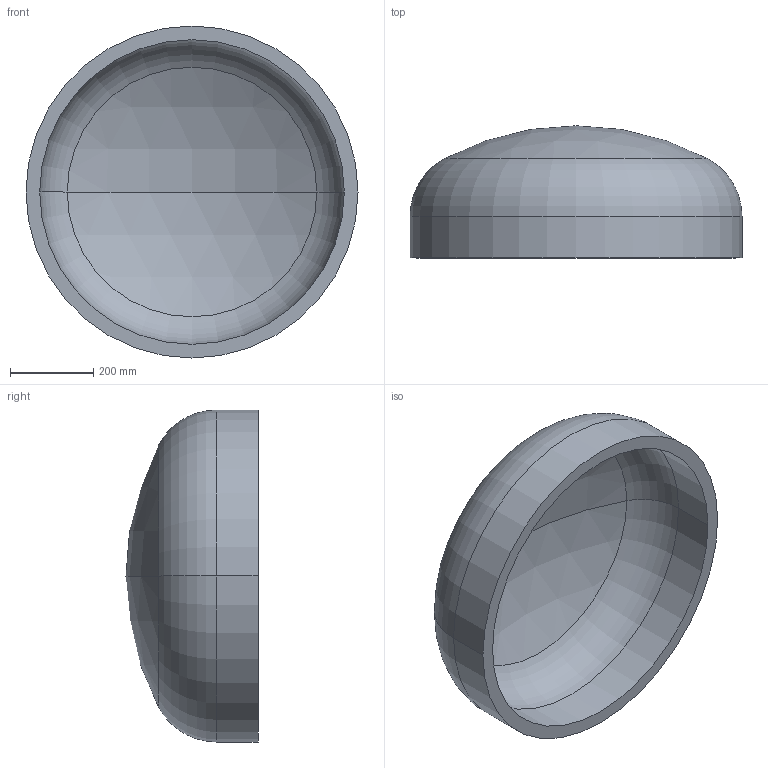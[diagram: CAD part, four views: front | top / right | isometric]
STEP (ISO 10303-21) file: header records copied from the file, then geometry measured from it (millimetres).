
FILE_DESCRIPTION (( 'STEP AP203' ), '1' );
FILE_NAME ('DIN 28013 Korbbogenform_-_Boden DIN 28013 - 800 x 100 - I - s=33.step', '2016-07-01T08:15:34', ( '' ), ( '' ), 'SwSTEP 2.0', 'SolidWorks 2013', '' );
FILE_SCHEMA (( 'CONFIG_CONTROL_DESIGN' ));
Length unit declared in the file: millimetre
Products named in the file (1): DIN 28013 Korbbogenform_-_Boden DIN 28013 - 800 x 100 - I - s=33
Bounding box: 800 x 318.4 x 800 mm (x, y, z)
Volume: 29795505.3 mm3; surface area: 1887585.4 mm2
Topology: 1 solids, 1 shells, 13 faces, 24 edges, 14 vertices
Faces by surface type: torus 4, cylinder 4, sphere 4, plane 1
Entity records: 407 total; most frequent: DIRECTION 72, CARTESIAN_POINT 52, ORIENTED_EDGE 48, AXIS2_PLACEMENT_3D 34, EDGE_CURVE 24, CIRCLE 20, VERTEX_POINT 14, EDGE_LOOP 14
